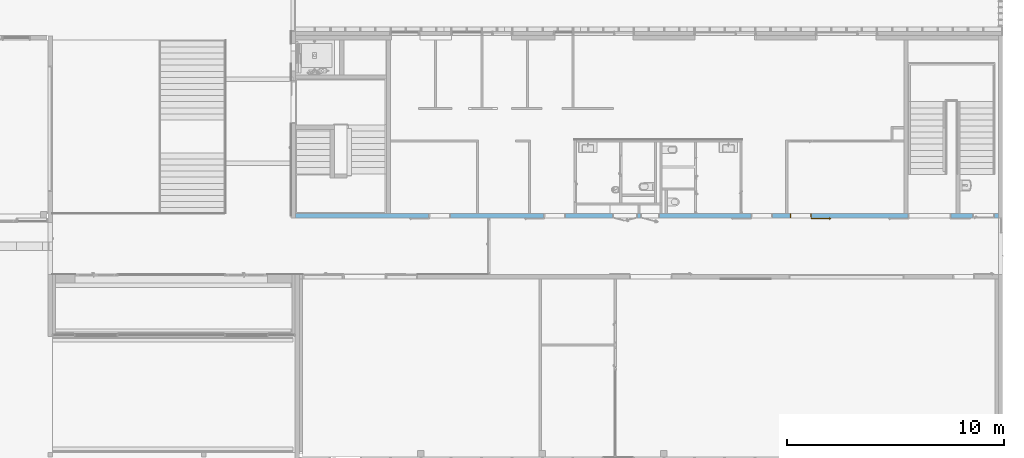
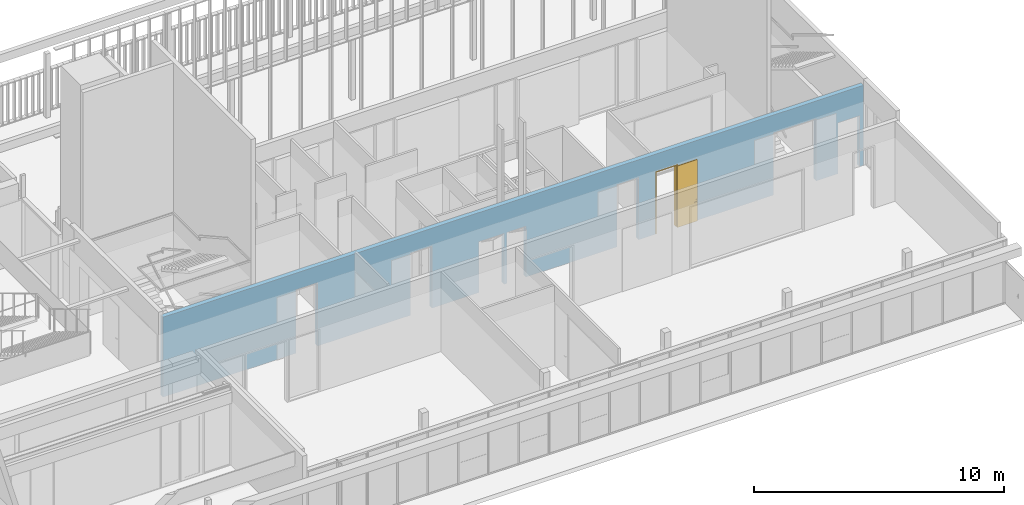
# One storey, part 226 of 240: 1 door, 8 openings, plus 1 element that does not belong to this part.
"""IFC2X3 building model written with IfcOpenShell, lengths in centimetres."""

from ifc_helpers import new_model, entity, si_unit, converted_unit, derived_unit, direction, frame, frame_2d, origin, place, context, subcontext, project, spatial, polyline, rectangle, extrude, clip, bounded_halfspace, faceted_brep, source, transform, mapped, material, material_list, layer, layer_set, layer_usage, type_object, type_shapes, element, fill, save


model = new_model("IFC2X3")

# Units and contexts
model_context = context("Model", 3, precision=0.001, world=origin(), true_north=direction((6.12303176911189e-17, 1.0)))
body_context = subcontext(model_context, "Body", "Model", "MODEL_VIEW")
ifc_project = project(units=[si_unit("LENGTHUNIT", "METRE", prefix="CENTI"), si_unit("AREAUNIT", "SQUARE_METRE"), si_unit("VOLUMEUNIT", "CUBIC_METRE"), converted_unit("PLANEANGLEUNIT", "DEGREE", entity("IfcRatioMeasure", 0.0174532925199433), si_unit("PLANEANGLEUNIT", "RADIAN"), dimensions=[0, 0, 0, 0, 0, 0, 0]), si_unit("MASSUNIT", "GRAM", prefix="KILO"), derived_unit("MASSDENSITYUNIT", [(si_unit("MASSUNIT", "GRAM", prefix="KILO"), 1), (si_unit("LENGTHUNIT", "METRE"), -3)]), si_unit("TIMEUNIT", "SECOND"), si_unit("FREQUENCYUNIT", "HERTZ"), si_unit("THERMODYNAMICTEMPERATUREUNIT", "DEGREE_CELSIUS"), derived_unit("THERMALTRANSMITTANCEUNIT", [(si_unit("MASSUNIT", "GRAM", prefix="KILO"), 1), (si_unit("THERMODYNAMICTEMPERATUREUNIT", "KELVIN"), -1), (si_unit("TIMEUNIT", "SECOND"), -3)]), derived_unit("VOLUMETRICFLOWRATEUNIT", [(si_unit("LENGTHUNIT", "METRE"), 3), (si_unit("TIMEUNIT", "SECOND"), -1)]), si_unit("ELECTRICCURRENTUNIT", "AMPERE"), si_unit("ELECTRICVOLTAGEUNIT", "VOLT"), si_unit("POWERUNIT", "WATT"), si_unit("FORCEUNIT", "NEWTON", prefix="KILO"), si_unit("ILLUMINANCEUNIT", "LUX"), si_unit("LUMINOUSFLUXUNIT", "LUMEN"), si_unit("LUMINOUSINTENSITYUNIT", "CANDELA"), derived_unit("USERDEFINED", [(si_unit("MASSUNIT", "GRAM", prefix="KILO"), -1), (si_unit("LENGTHUNIT", "METRE"), -2), (si_unit("TIMEUNIT", "SECOND"), 3), (si_unit("LUMINOUSFLUXUNIT", "LUMEN"), 1)]), derived_unit("LINEARVELOCITYUNIT", [(si_unit("LENGTHUNIT", "METRE"), 1), (si_unit("TIMEUNIT", "SECOND"), -1)]), si_unit("PRESSUREUNIT", "PASCAL"), derived_unit("USERDEFINED", [(si_unit("LENGTHUNIT", "METRE"), -2), (si_unit("MASSUNIT", "GRAM", prefix="KILO"), 1), (si_unit("TIMEUNIT", "SECOND"), -2)])], contexts=[model_context])

# Site, building, storey
site_placement = place(None, frame((-2781.94577612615, 7442.24238424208, 0.0)))
site = spatial("IfcSite", under=ifc_project, at=site_placement, Name="Default", CompositionType="ELEMENT")
building_placement = place(site_placement, origin())
building = spatial("IfcBuilding", under=site, at=building_placement, CompositionType="ELEMENT")
storey_placement = place(building_placement, origin())
storey = spatial("IfcBuildingStorey", under=building, at=storey_placement, Name="N00 - COO", CompositionType="ELEMENT", Elevation=0.0)

# Wall, openings, door
ifc_material_1 = material(Name="01 - Maçonnerie")
ifc_layer = layer(ifc_material_1, 20.0)
ifc_layer_set = layer_set([ifc_layer], Name="Mur de base:04 - Structure - béton - 20cm")
ifc_layer_usage = layer_usage(ifc_layer_set, "AXIS2", "NEGATIVE", 10.0)
wall_type = type_object("IfcWallType", Name="Mur de base:04 - Structure - béton - 20cm", PredefinedType="STANDARD", material=ifc_layer_set)
wall_placement = place(building_placement, frame((-3647.99987968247, -1920.07903364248, 0.0)))
wall = element("IfcWallStandardCase", 1, at=wall_placement, inside=storey, type_object=wall_type, material=ifc_layer_usage, Name="Mur de base:04 - Structure - béton - 20cm", ObjectType="Mur de base:04 - Structure - béton - 20cm", context=body_context, shape_type="Clipping", body=[
    clip(extrude(rectangle(XDim=3237.99999684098, YDim=19.9999999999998, at=frame_2d((1618.99999842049, -2.66453525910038e-15), x_axis=(-1.0, 0.0))), origin(), (0.0, 0.0, 1.0), 391.0), bounded_halfspace(frame((0.0, -10.0, 391.0), z_axis=(0.0, 0.0, -1.0), x_axis=(0.0, 1.0, 0.0)), True, frame((0.0, -10.0, 391.0)), polyline([(0.0, 0.0), (3238.0, 0.0), (3238.0, 20.0), (3062.69999684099, 20.0), (3042.69999684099, 20.0), (2268.49999684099, 20.0), (2258.49999684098, 20.0), (2058.49999684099, 20.0), (2048.49999684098, 20.0), (1848.49999684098, 20.0), (1838.49999684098, 20.0), (1713.49999684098, 20.0), (1703.49999684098, 20.0), (1293.99999684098, 20.0), (1283.99999684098, 20.0), (1083.99999684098, 20.0), (1073.99999684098, 20.0), (843.999996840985, 20.0), (833.999996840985, 20.0), (438.699996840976, 20.0), (0.0, 20.0), (0.0, 0.0)]))),
])
opening_1_placement = place(wall_placement, frame((3019.69999684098, 10.0, 0.0)))
element("IfcOpeningElement", 2, at=opening_1_placement, cuts=wall, Name="Int. Double:PP (1.90m x 3.00m):1", ObjectType="Opening", context=body_context, shape_type="SweptSolid", body=[
    extrude(rectangle(XDim=304.500000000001, YDim=197.0, at=frame_2d((152.250000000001, 98.5), x_axis=(1.0, 0.0))), frame((0.0, 0.0, 0.0), z_axis=(0.0, -1.0, 0.0), x_axis=(0.0, 0.0, 1.0)), (0.0, 0.0, 1.0), 20.0),
])
opening_2_placement = place(wall_placement, frame((1243.99999684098, 10.0, 0.0)))
element("IfcOpeningElement", 3, at=opening_2_placement, cuts=wall, Name="Int. Simple:PV (0.93m x 3.00m):1", ObjectType="Opening", context=body_context, shape_type="SweptSolid", body=[
    extrude(rectangle(XDim=304.500000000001, YDim=99.9999999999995, at=frame_2d((152.250000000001, 49.9999999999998), x_axis=(1.0, 0.0))), frame((0.0, 0.0, 0.0), z_axis=(0.0, -1.0, 0.0), x_axis=(0.0, 0.0, 1.0)), (0.0, 0.0, 1.0), 20.0),
])
opening_3_placement = place(wall_placement, frame((2198.49999684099, 10.0, 0.0)))
element("IfcOpeningElement", 4, at=opening_3_placement, cuts=wall, Name="Int. Simple:PV (0.93m x 3.00m):1", ObjectType="Opening", context=body_context, shape_type="SweptSolid", body=[
    extrude(rectangle(XDim=304.500000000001, YDim=99.9999999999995, at=frame_2d((152.250000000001, 49.9999999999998), x_axis=(1.0, 0.0))), frame((0.0, 0.0, 0.0), z_axis=(0.0, -1.0, 0.0), x_axis=(0.0, 0.0, 1.0)), (0.0, 0.0, 1.0), 20.0),
])
opening_4_placement = place(wall_placement, frame((713.999996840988, 10.0, 0.0)))
element("IfcOpeningElement", 5, at=opening_4_placement, cuts=wall, Name="Int. Simple:PP (0.93m x 3.06m):1", ObjectType="Opening", context=body_context, shape_type="SweptSolid", body=[
    extrude(rectangle(XDim=309.500000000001, YDim=99.9999999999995, at=frame_2d((154.750000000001, 49.9999999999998), x_axis=(1.0, 0.0))), frame((0.0, 0.0, 0.0), z_axis=(0.0, -1.0, 0.0), x_axis=(0.0, 0.0, 1.0)), (0.0, 0.0, 1.0), 20.0),
])
opening_5_placement = place(wall_placement, frame((1576.99999684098, 10.0, 0.0)))
element("IfcOpeningElement", 6, at=opening_5_placement, cuts=wall, Name="Int. Double:PP Placard (1.10m x 2.50m):1", ObjectType="Opening", context=body_context, shape_type="SweptSolid", body=[
    extrude(rectangle(XDim=248.500000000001, YDim=117.0, at=frame_2d((124.250000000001, 58.5000000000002), x_axis=(1.0, 0.0))), frame((0.0, 0.0, 0.0), z_axis=(0.0, -1.0, 0.0), x_axis=(0.0, 0.0, 1.0)), (0.0, 0.0, 1.0), 20.0),
])
opening_6_placement = place(wall_placement, frame((1677.0, 10.0, 0.0)))
element("IfcOpeningElement", 7, at=opening_6_placement, cuts=wall, Name="Int. Simple:PP Placard (0.80m x 2.50m):1", ObjectType="Opening", context=body_context, shape_type="SweptSolid", body=[
    extrude(rectangle(XDim=248.500000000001, YDim=86.9999999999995, at=frame_2d((124.250000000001, 43.4999999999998), x_axis=(1.0, 0.0))), frame((0.0, 0.0, 0.0), z_axis=(0.0, -1.0, 0.0), x_axis=(0.0, 0.0, 1.0)), (0.0, 0.0, 1.0), 20.0),
])
opening_7_placement = place(wall_placement, frame((2378.49999684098, 10.0, 0.0)))
opening_7 = element("IfcOpeningElement", 8, at=opening_7_placement, cuts=wall, Name="Int. Simple:PV (0.93m x 3.00m):1", ObjectType="Opening", context=body_context, shape_type="SweptSolid", body=[
    extrude(rectangle(XDim=304.500000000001, YDim=99.9999999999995, at=frame_2d((152.250000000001, 49.9999999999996), x_axis=(1.0, 0.0))), frame((0.0, 0.0, 0.0), z_axis=(0.0, -1.0, 0.0), x_axis=(0.0, 0.0, 1.0)), (0.0, 0.0, 1.0), 20.0),
])
opening_8_placement = place(wall_placement, frame((3220.0, 10.0, 0.0)))
element("IfcOpeningElement", 9, at=opening_8_placement, cuts=wall, Name="Int. Simple:PP simple (0.93m x 2.50m):1", ObjectType="Opening", context=body_context, shape_type="SweptSolid", body=[
    extrude(rectangle(XDim=248.500000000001, YDim=99.9999999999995, at=frame_2d((124.250000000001, 49.9999999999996), x_axis=(1.0, 0.0))), frame((0.0, 0.0, 0.0), z_axis=(0.0, -1.0, 0.0), x_axis=(0.0, 0.0, 1.0)), (0.0, 0.0, 1.0), 20.0),
])
ifc_material_2 = material(Name="Finition Peinture - Blanc satiné")
ifc_material_3 = material(Name="Bois - Panneau de porte")
ifc_material_4 = material(Name="Bois - Cadre de porte")
ifc_material_list_1 = material_list([ifc_material_2, ifc_material_3, ifc_material_4])
ifc_material_list_2 = material_list([ifc_material_2, ifc_material_3, ifc_material_4])
door_style = type_object("IfcDoorStyle", Name="PV (0.93m x 3.00m)", ConstructionType="NOTDEFINED", OperationType="SINGLE_SWING_LEFT", ParameterTakesPrecedence=False, Sizeable=False, material=ifc_material_list_2)
shared_shape = source(origin(), body_context, "Body", "Brep", [
    faceted_brep([(182.464723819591, 0.499999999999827, 86.6003983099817), (181.500000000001, 0.499999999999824, 87.0), (181.500000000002, 0.499999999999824, 108.0), (182.464723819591, 0.499999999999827, 108.399601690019), (183.500000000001, 0.49999999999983, 108.535898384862), (184.535276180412, 0.499999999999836, 108.399601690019), (185.500000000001, 0.499999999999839, 108.0), (185.500000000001, 0.499999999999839, 87.0), (184.535276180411, 0.499999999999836, 86.6003983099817), (183.500000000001, 0.49999999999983, 86.464101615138), (182.464723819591, 0.0, 108.399601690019), (181.500000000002, 0.0, 108.0), (181.500000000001, 0.0, 87.0), (182.464723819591, 0.0, 86.6003983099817), (183.500000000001, 0.0, 86.464101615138), (184.535276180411, 0.0, 86.6003983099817), (185.500000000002, 0.0, 87.0), (185.500000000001, 0.0, 108.0), (184.535276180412, 0.0, 108.399601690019), (183.500000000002, 0.0, 108.535898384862)], [[[0, 1, 2, 3, 4, 5, 6, 7, 8, 9]], [[10, 11, 12, 13, 14, 15, 16, 17, 18, 19]], [[16, 15, 8, 7]], [[8, 15, 14, 9]], [[14, 13, 0, 9]], [[13, 12, 1, 0]], [[2, 1, 12, 11]], [[11, 10, 3, 2]], [[3, 10, 19, 4]], [[19, 18, 5, 4]], [[18, 17, 6, 5]], [[7, 6, 17, 16]]]),
    faceted_brep([(182.464723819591, -4.0, 86.6003983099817), (181.500000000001, -4.0, 87.0), (181.500000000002, -4.0, 108.0), (182.464723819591, -4.0, 108.399601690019), (183.500000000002, -4.0, 108.535898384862), (184.535276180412, -4.0, 108.399601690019), (185.500000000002, -4.0, 108.0), (185.500000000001, -4.0, 87.0), (184.535276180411, -4.0, 86.6003983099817), (183.500000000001, -4.0, 86.464101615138), (182.464723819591, -4.50000000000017, 108.399601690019), (181.500000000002, -4.50000000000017, 108.0), (181.500000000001, -4.50000000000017, 87.0), (182.464723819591, -4.50000000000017, 86.6003983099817), (183.500000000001, -4.50000000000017, 86.464101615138), (184.535276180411, -4.50000000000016, 86.6003983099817), (185.500000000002, -4.50000000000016, 87.0), (185.500000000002, -4.50000000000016, 108.0), (184.535276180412, -4.50000000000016, 108.399601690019), (183.500000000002, -4.50000000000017, 108.535898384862)], [[[0, 1, 2, 3, 4, 5, 6, 7, 8, 9]], [[10, 11, 12, 13, 14, 15, 16, 17, 18, 19]], [[11, 10, 3, 2]], [[3, 10, 19, 4]], [[19, 18, 5, 4]], [[18, 17, 6, 5]], [[7, 6, 17, 16]], [[16, 15, 8, 7]], [[8, 15, 14, 9]], [[14, 13, 0, 9]], [[13, 12, 1, 0]], [[2, 1, 12, 11]]]),
    faceted_brep([(183.702529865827, 0.499999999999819, 100.778044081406), (183.297470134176, 0.499999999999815, 100.778044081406), (182.899999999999, 0.499999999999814, 100.699999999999), (182.9, 0.499999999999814, 99.3000000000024), (183.297470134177, 0.499999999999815, 99.2219559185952), (183.702529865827, 0.499999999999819, 99.221955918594), (184.100000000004, 0.499999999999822, 99.2999999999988), (184.100000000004, 0.499999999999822, 100.7), (184.100000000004, 3.26509507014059, 100.7), (183.702529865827, 3.10045754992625, 100.778044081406), (182.097641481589, 4.70534593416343, 100.778044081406), (181.929860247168, 4.30028620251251, 100.778044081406), (183.297470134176, 2.93267631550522, 100.778044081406), (182.899999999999, 2.76803879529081, 100.7), (182.899999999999, 2.7680387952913, 99.3000000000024), (183.297470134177, 2.93267631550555, 99.2219559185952), (181.929860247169, 4.3002862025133, 99.2219559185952), (182.09764148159, 4.70534593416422, 99.221955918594), (183.702529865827, 3.10045754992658, 99.221955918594), (184.100000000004, 3.26509507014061, 99.2999999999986), (182.262279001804, 5.10281606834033, 100.7), (181.765222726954, 3.90281606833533, 100.7), (181.765222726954, 3.90281606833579, 99.3000000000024), (182.262279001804, 5.10281606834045, 99.2999999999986), (173.498135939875, 5.1028160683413, 99.2999999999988), (173.498135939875, 4.70534593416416, 99.221955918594), (173.498135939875, 4.30028620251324, 99.2219559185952), (173.498135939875, 3.90281606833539, 99.3000000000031), (173.498135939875, 3.90281606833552, 100.7), (173.498135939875, 4.30028620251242, 100.778044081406), (173.498135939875, 4.70534593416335, 100.778044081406), (173.498135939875, 5.10281606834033, 100.699999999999), (178.26923027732, 5.10281606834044, 100.7), (177.713998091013, 4.50281606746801, 100.78786867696), (177.631679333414, 3.90281606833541, 100.7), (177.631679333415, 3.9028160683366, 99.3000000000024), (177.713998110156, 4.50281607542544, 99.2121313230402), (178.269229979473, 5.10281606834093, 99.2999999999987)], [[[0, 1, 2, 3, 4, 5, 6, 7]], [[8, 9, 0, 7]], [[9, 10, 11, 12, 1, 0]], [[12, 13, 2, 1]], [[3, 2, 13, 14]], [[14, 15, 4, 3]], [[15, 16, 17, 18, 5, 4]], [[18, 19, 6, 5]], [[7, 6, 19, 8]], [[20, 10, 9, 8]], [[11, 21, 13, 12]], [[14, 13, 21, 22]], [[22, 16, 15, 14]], [[17, 23, 19, 18]], [[8, 19, 23, 20]], [[24, 25, 26, 27, 28, 29, 30, 31]], [[32, 30, 33]], [[31, 30, 32]], [[10, 20, 32]], [[33, 34, 11]], [[21, 11, 34]], [[34, 29, 28]], [[30, 29, 33]], [[29, 34, 33]], [[10, 32, 33]], [[10, 33, 11]], [[22, 21, 34, 28, 27, 35]], [[35, 26, 36]], [[37, 36, 25]], [[22, 35, 16]], [[35, 27, 26]], [[24, 37, 25]], [[23, 17, 37]], [[37, 17, 36]], [[17, 16, 36]], [[16, 35, 36]], [[25, 36, 26]], [[20, 23, 37, 24, 31, 32]]]),
    faceted_brep([(183.702529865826, -4.50000000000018, 100.778044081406), (184.100000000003, -4.50000000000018, 100.7), (184.100000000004, -4.50000000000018, 99.2999999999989), (183.702529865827, -4.50000000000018, 99.221955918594), (183.297470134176, -4.50000000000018, 99.2219559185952), (182.899999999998, -4.50000000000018, 99.3000000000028), (182.899999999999, -4.50000000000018, 100.7), (183.297470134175, -4.50000000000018, 100.778044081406), (182.899999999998, -6.74852045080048, 99.3000000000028), (182.899999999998, -6.74852045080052, 100.7), (183.297470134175, -6.91315797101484, 100.778044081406), (181.916109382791, -8.29451872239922, 100.778044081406), (182.083890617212, -8.69957845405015, 100.778044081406), (183.702529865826, -7.08093920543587, 100.778044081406), (184.100000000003, -7.24557672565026, 100.7), (184.100000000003, -7.24557672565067, 99.2999999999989), (183.702529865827, -7.08093920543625, 99.221955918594), (182.083890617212, -8.69957845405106, 99.221955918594), (181.916109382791, -8.29451872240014, 99.2219559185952), (183.297470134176, -6.91315797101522, 99.2219559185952), (181.751471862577, -7.89704858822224, 99.3000000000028), (181.751471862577, -7.89704858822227, 100.7), (182.248528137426, -9.09704858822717, 100.7), (182.248528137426, -9.09704858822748, 99.2999999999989), (173.495421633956, -7.89704858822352, 99.3000000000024), (173.495421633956, -8.29451872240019, 99.2219559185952), (173.495421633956, -8.69957845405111, 99.221955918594), (173.495421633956, -9.09704858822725, 99.2999999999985), (173.495421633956, -9.09704858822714, 100.7), (173.495421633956, -8.69957845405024, 100.778044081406), (173.495421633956, -8.29451872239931, 100.778044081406), (173.495421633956, -7.89704858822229, 100.7), (177.623447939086, -7.89704858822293, 99.3000000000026), (177.623446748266, -7.89704858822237, 100.7), (177.705765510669, -8.49704858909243, 100.78786867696), (178.255479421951, -9.09704858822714, 100.7), (178.255479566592, -9.09704858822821, 99.2999999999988), (177.705765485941, -8.49704858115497, 99.2121313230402)], [[[0, 1, 2, 3, 4, 5, 6, 7]], [[6, 5, 8, 9]], [[9, 10, 7, 6]], [[10, 11, 12, 13, 0, 7]], [[13, 14, 1, 0]], [[2, 1, 14, 15]], [[15, 16, 3, 2]], [[16, 17, 18, 19, 4, 3]], [[19, 8, 5, 4]], [[9, 8, 20, 21]], [[21, 11, 10, 9]], [[12, 22, 14, 13]], [[15, 14, 22, 23]], [[23, 17, 16, 15]], [[18, 20, 8, 19]], [[24, 25, 26, 27, 28, 29, 30, 31]], [[21, 20, 32, 24, 31, 33]], [[33, 30, 34]], [[35, 34, 29]], [[21, 33, 11]], [[33, 31, 30]], [[28, 35, 29]], [[22, 12, 35]], [[35, 12, 34]], [[12, 11, 34]], [[11, 33, 34]], [[29, 34, 30]], [[22, 35, 28, 27, 36, 23]], [[36, 26, 37]], [[27, 26, 36]], [[17, 23, 36]], [[37, 32, 18]], [[20, 18, 32]], [[32, 25, 24]], [[26, 25, 37]], [[25, 32, 37]], [[17, 36, 37]], [[17, 37, 18]]]),
    faceted_brep([(189.500000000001, -4.0, 301.0), (96.5000000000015, -4.0, 301.0), (96.5000000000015, -4.0, 0.0), (189.500000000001, -4.0, 0.0), (189.500000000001, 0.0, 301.0), (189.500000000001, 0.0, 0.0), (96.5000000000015, 0.0, 0.0), (96.5000000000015, 0.0, 301.0)], [[[0, 1, 2, 3]], [[4, 5, 6, 7]], [[1, 0, 4, 7]], [[2, 1, 7, 6]], [[3, 2, 6, 5]], [[0, 3, 5, 4]]]),
    faceted_brep([(0.0, 20.0, 0.0), (-1.50000000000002, 20.0, 0.0), (-1.50000000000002, 20.5000000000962, 0.0), (5.0, 20.5000000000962, 0.0), (5.0, 4.0, 0.0), (3.50000000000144, 4.0, 0.0), (3.50000000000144, -0.500000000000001, 0.0), (-1.50000000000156, -0.500000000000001, 0.0), (-1.50000000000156, 0.0, 0.0), (0.0, 0.0, 0.0), (0.0, 20.0, 304.500000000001), (100.0, 20.0, 304.500000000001), (100.0, 20.0, 0.0), (101.5, 20.0, 0.0), (101.5, 20.0, 306.0), (-1.50000000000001, 20.0, 306.0), (-1.50000000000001, 20.5000000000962, 306.0), (101.5, 20.5000000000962, 306.0), (101.5, 20.5000000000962, 0.0), (95.0, 20.5000000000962, 0.0), (95.0, 20.5000000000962, 299.5), (5.0, 20.5000000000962, 299.5), (5.0, 4.0, 299.5), (95.0, 4.0, 299.5), (95.0, 4.0, 0.0), (96.4999999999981, 4.0, 0.0), (96.4999999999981, 4.0, 301.0), (3.50000000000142, 4.0, 301.0), (3.50000000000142, -0.500000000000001, 301.0), (96.4999999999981, -0.500000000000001, 301.0), (96.4999999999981, -0.500000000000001, 0.0), (101.500000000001, -0.500000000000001, 0.0), (101.500000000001, -0.500000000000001, 306.0), (-1.50000000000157, -0.500000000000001, 306.0), (-1.50000000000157, 0.0, 306.0), (101.500000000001, 0.0, 306.0), (101.500000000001, 0.0, 0.0), (100.0, 0.0, 0.0), (100.0, 0.0, 304.500000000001), (0.0, 0.0, 304.500000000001)], [[[0, 1, 2, 3, 4, 5, 6, 7, 8, 9]], [[1, 0, 10, 11, 12, 13, 14, 15]], [[2, 1, 15, 16]], [[3, 2, 16, 17, 18, 19, 20, 21]], [[3, 21, 22, 4]], [[5, 4, 22, 23, 24, 25, 26, 27]], [[5, 27, 28, 6]], [[7, 6, 28, 29, 30, 31, 32, 33]], [[8, 7, 33, 34]], [[9, 8, 34, 35, 36, 37, 38, 39]], [[0, 9, 39, 10]], [[11, 38, 37, 12]], [[12, 37, 36, 31, 30, 25, 24, 19, 18, 13]], [[17, 14, 13, 18]], [[23, 20, 19, 24]], [[29, 26, 25, 30]], [[35, 32, 31, 36]], [[10, 39, 38, 11]], [[16, 15, 14, 17]], [[22, 21, 20, 23]], [[28, 27, 26, 29]], [[34, 33, 32, 35]]]),
])
type_shapes(door_style, [shared_shape])
door_placement = place(opening_7_placement, frame((-100.0, -20.0, 0.0)))
door = element("IfcDoor", 10, at=door_placement, inside=storey, type_object=door_style, material=ifc_material_list_1, Name="Int. Simple:PV (0.93m x 3.00m)", ObjectType="Int. Simple:PV (0.93m x 3.00m)", OverallHeight=304.500000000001, OverallWidth=99.9999999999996, context=body_context, shape_type="MappedRepresentation", body=[
    mapped(shared_shape, transform((0.0, 0.0, 0.0), scale=1.0)),
])
fill(opening_7, door)

save(model, "model.ifc")
